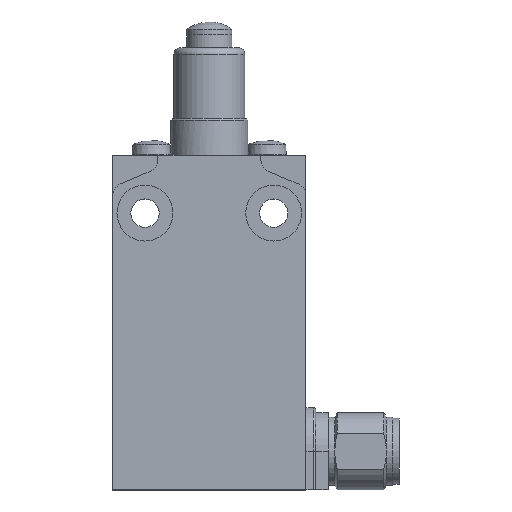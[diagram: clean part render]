
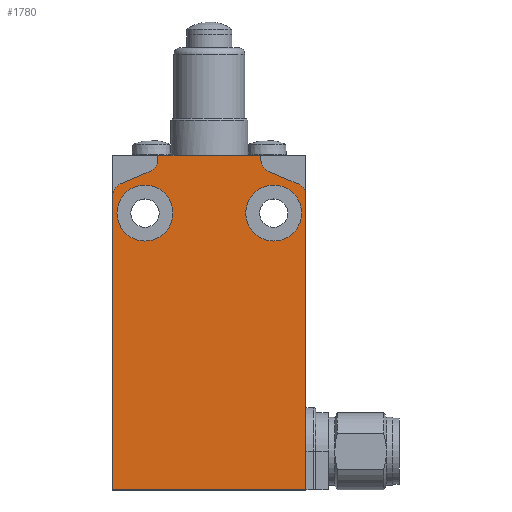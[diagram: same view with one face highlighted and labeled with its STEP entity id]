
A CAD part, top view. The second image highlights one B-rep face of the part: STEP entity #1780.
In plain terms, the highlighted planar face has unit normal (0, 0, 1) as drawn and (0, -1, 0) by its records, which use the part's own axes.
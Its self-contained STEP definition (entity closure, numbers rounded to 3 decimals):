
#55=LINE('',#2759,#173);
#82=LINE('',#2846,#200);
#83=LINE('',#2850,#201);
#84=LINE('',#2852,#202);
#85=LINE('',#2854,#203);
#86=LINE('',#2858,#204);
#87=LINE('',#2862,#205);
#88=LINE('',#2863,#206);
#173=VECTOR('',#2180,45.681);
#200=VECTOR('',#2273,4.978);
#201=VECTOR('',#2276,0.681);
#202=VECTOR('',#2277,16.);
#203=VECTOR('',#2278,0.681);
#204=VECTOR('',#2281,4.978);
#205=VECTOR('',#2284,45.681);
#206=VECTOR('',#2285,30.);
#308=PLANE('',#1936);
#363=FACE_BOUND('',#552,.T.);
#364=FACE_BOUND('',#553,.T.);
#425=FACE_OUTER_BOUND('',#551,.T.);
#551=EDGE_LOOP('',(#1293,#1294,#1295,#1296,#1297,#1298,#1299,#1300,#1301,
#1302,#1303,#1304));
#552=EDGE_LOOP('',(#1305));
#553=EDGE_LOOP('',(#1306));
#667=CIRCLE('',#1879,4.35);
#671=CIRCLE('',#1885,4.35);
#693=CIRCLE('',#1934,2.);
#695=CIRCLE('',#1937,2.);
#696=CIRCLE('',#1938,2.);
#697=CIRCLE('',#1939,2.);
#769=VERTEX_POINT('',#2668);
#773=VERTEX_POINT('',#2678);
#796=VERTEX_POINT('',#2756);
#797=VERTEX_POINT('',#2758);
#822=VERTEX_POINT('',#2839);
#824=VERTEX_POINT('',#2845);
#825=VERTEX_POINT('',#2847);
#826=VERTEX_POINT('',#2849);
#827=VERTEX_POINT('',#2851);
#828=VERTEX_POINT('',#2853);
#829=VERTEX_POINT('',#2855);
#830=VERTEX_POINT('',#2857);
#831=VERTEX_POINT('',#2859);
#832=VERTEX_POINT('',#2861);
#934=EDGE_CURVE('',#769,#769,#667,.T.);
#938=EDGE_CURVE('',#773,#773,#671,.T.);
#969=EDGE_CURVE('',#796,#797,#55,.T.);
#1007=EDGE_CURVE('',#822,#796,#693,.T.);
#1010=EDGE_CURVE('',#822,#824,#82,.T.);
#1011=EDGE_CURVE('',#825,#824,#695,.T.);
#1012=EDGE_CURVE('',#825,#826,#83,.T.);
#1013=EDGE_CURVE('',#827,#826,#84,.T.);
#1014=EDGE_CURVE('',#827,#828,#85,.T.);
#1015=EDGE_CURVE('',#829,#828,#696,.T.);
#1016=EDGE_CURVE('',#829,#830,#86,.T.);
#1017=EDGE_CURVE('',#831,#830,#697,.T.);
#1018=EDGE_CURVE('',#832,#831,#87,.T.);
#1019=EDGE_CURVE('',#797,#832,#88,.T.);
#1293=ORIENTED_EDGE('',*,*,#1007,.F.);
#1294=ORIENTED_EDGE('',*,*,#1010,.T.);
#1295=ORIENTED_EDGE('',*,*,#1011,.F.);
#1296=ORIENTED_EDGE('',*,*,#1012,.T.);
#1297=ORIENTED_EDGE('',*,*,#1013,.F.);
#1298=ORIENTED_EDGE('',*,*,#1014,.T.);
#1299=ORIENTED_EDGE('',*,*,#1015,.F.);
#1300=ORIENTED_EDGE('',*,*,#1016,.T.);
#1301=ORIENTED_EDGE('',*,*,#1017,.F.);
#1302=ORIENTED_EDGE('',*,*,#1018,.F.);
#1303=ORIENTED_EDGE('',*,*,#1019,.F.);
#1304=ORIENTED_EDGE('',*,*,#969,.F.);
#1305=ORIENTED_EDGE('',*,*,#938,.T.);
#1306=ORIENTED_EDGE('',*,*,#934,.T.);
#1780=ADVANCED_FACE('',(#425,#363,#364),#308,.T.);
#1879=AXIS2_PLACEMENT_3D('',#2669,#2117,#2118);
#1885=AXIS2_PLACEMENT_3D('',#2679,#2129,#2130);
#1934=AXIS2_PLACEMENT_3D('',#2840,#2266,#2267);
#1936=AXIS2_PLACEMENT_3D('',#2844,#2271,#2272);
#1937=AXIS2_PLACEMENT_3D('',#2848,#2274,#2275);
#1938=AXIS2_PLACEMENT_3D('',#2856,#2279,#2280);
#1939=AXIS2_PLACEMENT_3D('',#2860,#2282,#2283);
#2117=DIRECTION('center_axis',(0.,1.,0.));
#2118=DIRECTION('ref_axis',(-1.,0.,0.));
#2129=DIRECTION('center_axis',(0.,1.,0.));
#2130=DIRECTION('ref_axis',(1.,0.,0.));
#2180=DIRECTION('',(0.,0.,-1.));
#2266=DIRECTION('center_axis',(0.,1.,0.));
#2267=DIRECTION('ref_axis',(0.835,0.,0.55));
#2271=DIRECTION('center_axis',(0.,-1.,0.));
#2272=DIRECTION('ref_axis',(1.,0.,0.));
#2273=DIRECTION('',(-0.919,0.,0.394));
#2274=DIRECTION('center_axis',(0.,-1.,0.));
#2275=DIRECTION('ref_axis',(-0.835,0.,-0.55));
#2276=DIRECTION('',(0.,0.,1.));
#2277=DIRECTION('',(1.,0.,0.));
#2278=DIRECTION('',(0.,0.,-1.));
#2279=DIRECTION('center_axis',(0.,-1.,0.));
#2280=DIRECTION('ref_axis',(0.835,0.,-0.55));
#2281=DIRECTION('',(-0.919,0.,-0.394));
#2282=DIRECTION('center_axis',(0.,1.,0.));
#2283=DIRECTION('ref_axis',(-0.835,0.,0.55));
#2284=DIRECTION('',(0.,0.,1.));
#2285=DIRECTION('',(-1.,0.,0.));
#2668=CARTESIAN_POINT('',(-5.65,-16.,0.));
#2669=CARTESIAN_POINT('Origin',(-10.,-16.,0.));
#2678=CARTESIAN_POINT('',(5.65,-16.,0.));
#2679=CARTESIAN_POINT('Origin',(10.,-16.,0.));
#2756=CARTESIAN_POINT('',(15.,-16.,2.681));
#2758=CARTESIAN_POINT('',(15.,-16.,-43.));
#2759=CARTESIAN_POINT('',(15.,-16.,2.681));
#2839=CARTESIAN_POINT('',(13.788,-16.,4.519));
#2840=CARTESIAN_POINT('Origin',(13.,-16.,2.681));
#2844=CARTESIAN_POINT('Origin',(0.,-16.,-15.5));
#2845=CARTESIAN_POINT('',(9.212,-16.,6.481));
#2846=CARTESIAN_POINT('',(13.788,-16.,4.519));
#2847=CARTESIAN_POINT('',(8.,-16.,8.319));
#2848=CARTESIAN_POINT('Origin',(10.,-16.,8.319));
#2849=CARTESIAN_POINT('',(8.,-16.,9.));
#2850=CARTESIAN_POINT('',(8.,-16.,8.319));
#2851=CARTESIAN_POINT('',(-8.,-16.,9.));
#2852=CARTESIAN_POINT('',(-8.,-16.,9.));
#2853=CARTESIAN_POINT('',(-8.,-16.,8.319));
#2854=CARTESIAN_POINT('',(-8.,-16.,9.));
#2855=CARTESIAN_POINT('',(-9.212,-16.,6.481));
#2856=CARTESIAN_POINT('Origin',(-10.,-16.,8.319));
#2857=CARTESIAN_POINT('',(-13.788,-16.,4.519));
#2858=CARTESIAN_POINT('',(-9.212,-16.,6.481));
#2859=CARTESIAN_POINT('',(-15.,-16.,2.681));
#2860=CARTESIAN_POINT('Origin',(-13.,-16.,2.681));
#2861=CARTESIAN_POINT('',(-15.,-16.,-43.));
#2862=CARTESIAN_POINT('',(-15.,-16.,-43.));
#2863=CARTESIAN_POINT('',(15.,-16.,-43.));
